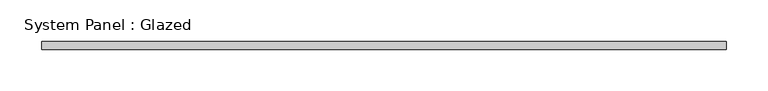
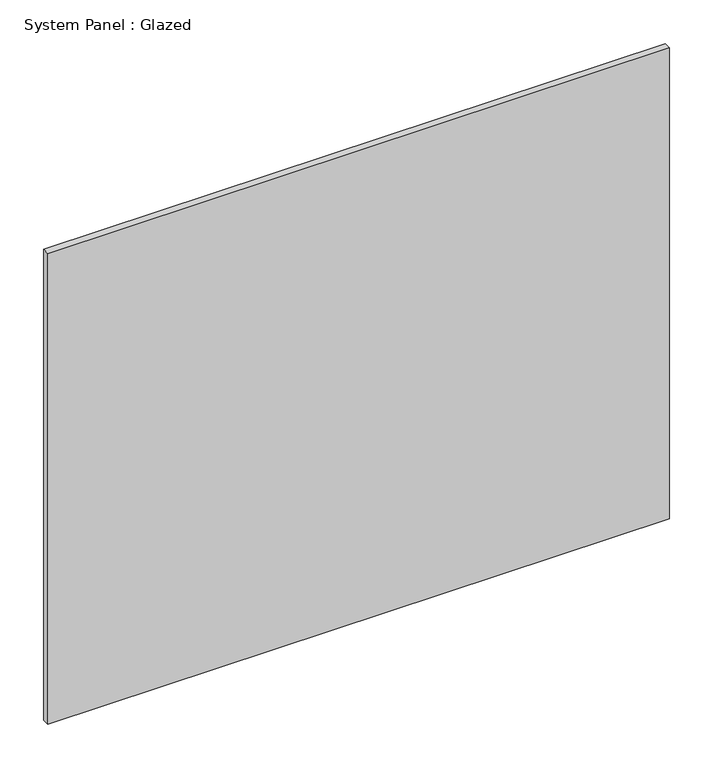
"""IFC4 building model written with IfcOpenShell, lengths in millimetres: plate geometry, System Panel : Glazed."""

from ifc_helpers import new_model, si_unit, origin, origin_with_axes, place, context, project, spatial, polyline, outline, extrude, source, transform, mapped, element, save


def system_panel_glazed_9dac0013(model_context):
    return source(origin(), model_context, "Body", "SweptSolid", [
        extrude(outline(polyline([(412.5, -5.0), (-412.5, -5.0), (-412.5, 5.0), (412.5, 5.0), (412.5, -5.0)])), origin_with_axes(), (0.0, 0.0, 1.0), 660.0),
    ])


if __name__ == "__main__":
    model = new_model("IFC4")
    model_context = context("Model", 3, world=origin())
    ifc_project = project(units=[si_unit("LENGTHUNIT", "METRE", prefix="MILLI")], contexts=[model_context])
    site = spatial("IfcSite", under=ifc_project)
    building = spatial("IfcBuilding", under=site)
    placement = place(None, origin())
    system_panel_glazed_shape = system_panel_glazed_9dac0013(model_context)
    element("IfcPlate", 1, ObjectType="System Panel : Glazed", at=placement, inside=building, context=model_context, shape_type="MappedRepresentation", body=[
        mapped(system_panel_glazed_shape, transform((0.0, 0.0, 0.0), x_axis=(1.0, 0.0, 0.0), y_axis=(0.0, 1.0, 0.0), z_axis=(0.0, 0.0, 1.0))),
    ])
    save(model, "model.ifc")
